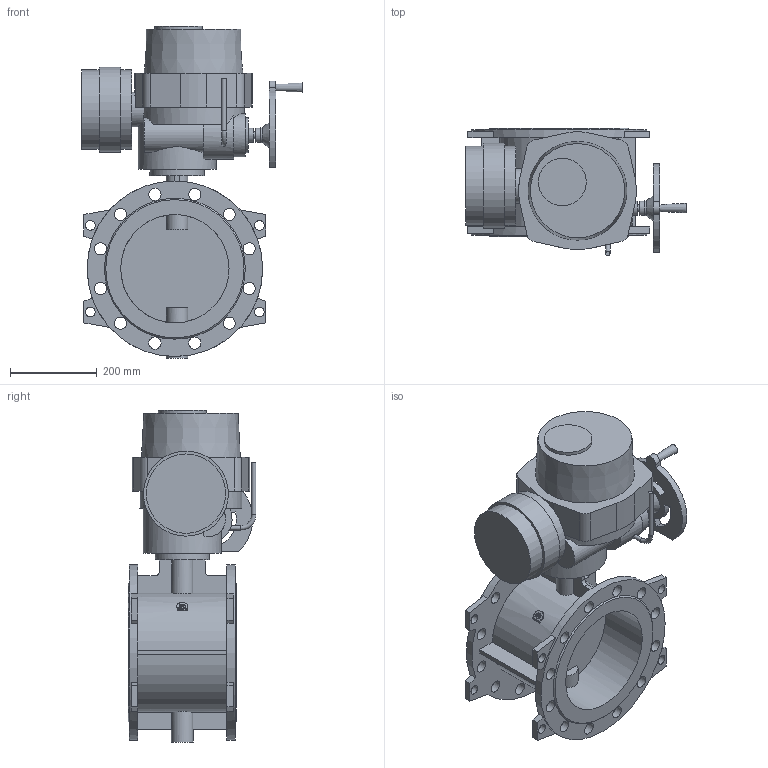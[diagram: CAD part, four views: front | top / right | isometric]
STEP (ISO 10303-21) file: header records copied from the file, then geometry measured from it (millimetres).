
FILE_DESCRIPTION(('STEP AP203'), '1');
FILE_NAME('Çàòâîð 023F.Z DN250 PN16 + ýëåêòðîïðèâîä QT.A080', '', ('UNSPECIFIED'), ('UNSPECIFIED'), 'ASCON STEP Converter 1.6', 'ASCON Math Kernel', '');
FILE_SCHEMA(('CONFIG_CONTROL_DESIGN'));
Length unit declared in the file: millimetre
Bounding box: 509 x 295 x 766 mm (x, y, z)
Volume: 25379056.9 mm3; surface area: 1526530.6 mm2
Topology: 1 solids, 1 shells, 240 faces, 605 edges, 399 vertices
Faces by surface type: plane 133, cylinder 101, cone 5, torus 1
Full cylindrical faces by diameter (mm): 10 x6, 12 x4, 14 x4, 16 x1, 22 x8, 28 x24, 32 x2, 35 x1, 50 x1, 80 x2, 100 x1, 110 x1, 125 x1, 180 x1, 183 x2, 196 x1, 250 x2, 405 x2
Entity records: 10623 total; most frequent: CARTESIAN_POINT 2844, DIRECTION 1233, ORIENTED_EDGE 1070, EDGE_CURVE 535, AXIS2_PLACEMENT_3D 485, EDGE_LOOP 412, VERTEX_POINT 399, FACE_BOUND 284
